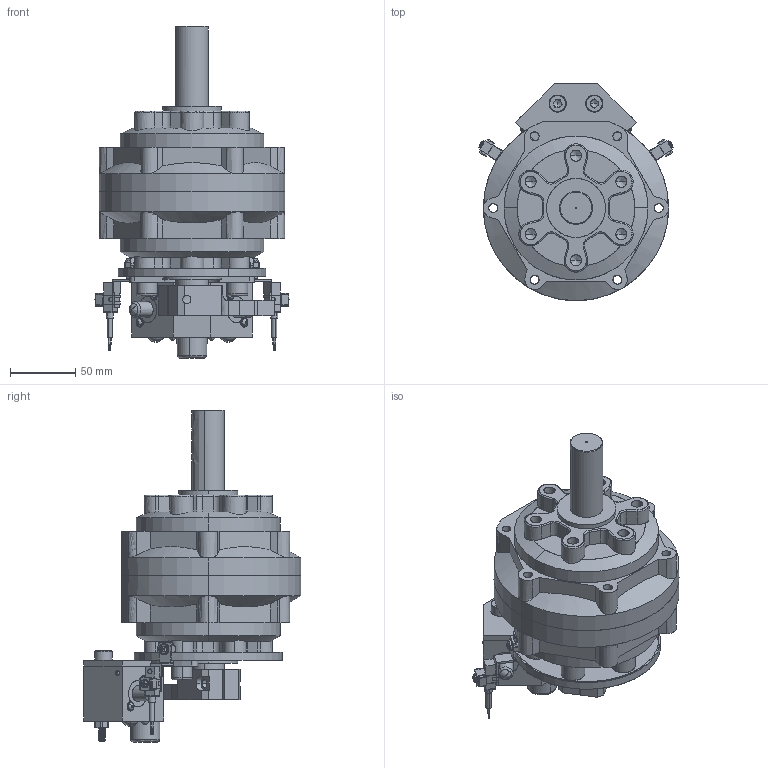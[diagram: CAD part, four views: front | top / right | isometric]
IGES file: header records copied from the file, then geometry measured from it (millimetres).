
Start section: SolidWorks IGES file using analytic representation for surfaces
Global section: file name: C:\Users\Chieh_Lu\Dropbox\¤u§@«Ç\PRN50-150-300-800\PRN300\PRN300\PRN300#-#-#-#-FC.IGS; native system: SolidWorks 2014; preprocessor: SolidWorks 2014; author: Chieh_Lu; date: 160115.004838; units: millimetre
Bounding box: 148.27 x 166.25 x 253.7 mm (x, y, z)
Surface area: 237933.7 mm2 (no closed solid volume)
Topology: 0 solids, 0 shells, 1404 faces, 17241 edges, 17179 vertices
Faces by surface type: bspline 784, revolution 620
